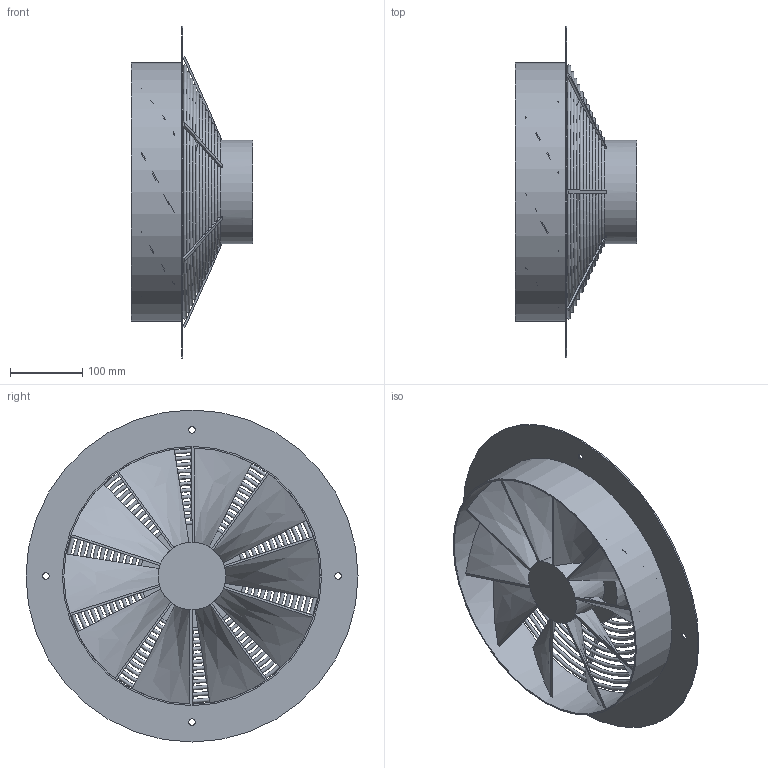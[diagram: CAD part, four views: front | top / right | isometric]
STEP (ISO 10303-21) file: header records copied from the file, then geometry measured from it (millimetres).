
FILE_DESCRIPTION(/* description */ (''),/* implementation_level */ '2;1');
FILE_NAME(/* name */ 'Z:\Output\HWW EC 355 A-04917-001.stp',/* time_stamp */ '2017-06-08T19:38:23+02:00',/* author */ ('Engineering1'),/* organization */ (''),/* preprocessor_version */ 'ST-DEVELOPER v16.5',/* originating_system */ 'Autodesk Inventor 2017',/* authorisation */ '');
FILE_SCHEMA (('AUTOMOTIVE_DESIGN { 1 0 10303 214 3 1 1 }'));
Length unit declared in the file: millimetre
Products named in the file (1): HW-1
Bounding box: 169 x 460 x 460 mm (x, y, z)
Volume: 2642500.9 mm3; surface area: 734863.8 mm2
Topology: 5 solids, 5 shells, 162 faces, 583 edges, 378 vertices
Faces by surface type: plane 110, bspline 30, torus 12, cylinder 10
Full cylindrical faces by diameter (mm): 9 x4, 93.6 x1, 143.6 x2, 355 x1, 359 x1, 460 x1
Entity records: 7238 total; most frequent: CARTESIAN_POINT 2065, ORIENTED_EDGE 1130, DIRECTION 948, EDGE_CURVE 549, VERTEX_POINT 365, AXIS2_PLACEMENT_3D 360, EDGE_LOOP 252, LINE 228
